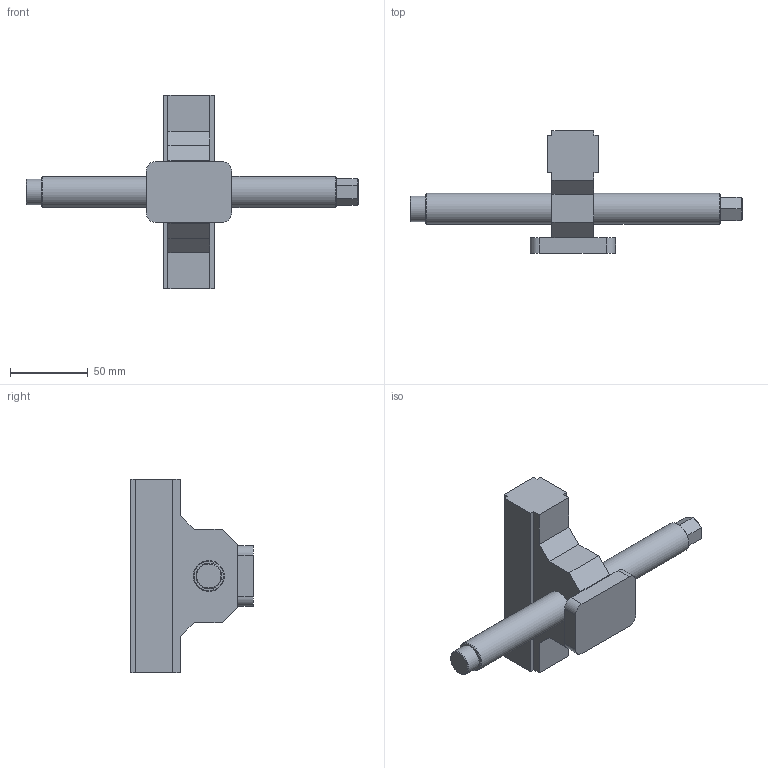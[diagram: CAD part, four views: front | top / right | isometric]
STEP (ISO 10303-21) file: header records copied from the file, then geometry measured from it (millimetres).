
FILE_DESCRIPTION (( 'STEP AP214' ), '1' );
FILE_NAME ('48205-TG2527.STEP', '2020-03-24T14:59:10', ( '' ), ( '' ), 'SwSTEP 2.0', 'SolidWorks 2019', '' );
FILE_SCHEMA (( 'AUTOMOTIVE_DESIGN' ));
Length unit declared in the file: millimetre
Products named in the file (1): 48205-TG2527
Bounding box: 214 x 79 x 125 mm (x, y, z)
Volume: 262308.6 mm3; surface area: 39620.8 mm2
Topology: 1 solids, 1 shells, 69 faces, 169 edges, 107 vertices
Faces by surface type: plane 59, cylinder 7, cone 3
Full cylindrical faces by diameter (mm): 16.5 x1, 20 x2
Entity records: 2454 total; most frequent: CARTESIAN_POINT 336, ORIENTED_EDGE 322, DIRECTION 318, EDGE_CURVE 161, VECTOR 144, LINE 144, VERTEX_POINT 105, AXIS2_PLACEMENT_3D 87
